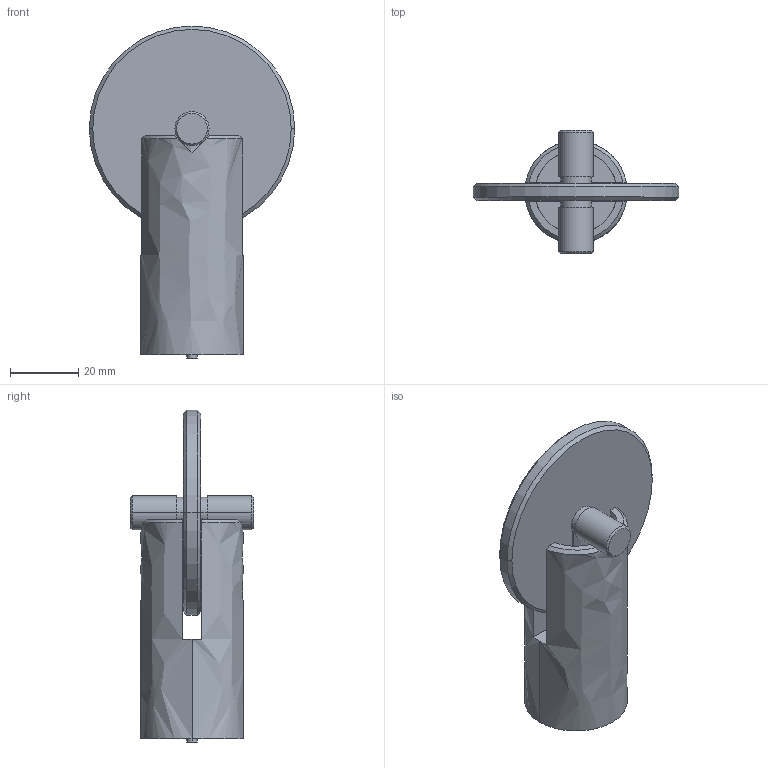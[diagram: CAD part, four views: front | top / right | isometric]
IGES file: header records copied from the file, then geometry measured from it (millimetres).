
Start section: Elysium IGES Interface
Global section: file name: 82HS:\5_測器センサ開発部\2課\2係\30_3D-CAD\20_オプション\01_Calゲージセット\506用.igs; native system: Creo Elements/Direct Modeling 18.1C  24-Feb-2013; preprocessor: Creo Element/Direct IGES_3D V2.2; author: Unknown; organization: Unknown; date: 20180914.195102; units: millimetre
Bounding box: 60 x 36 x 97 mm (x, y, z)
Volume: 54187.5 mm3; surface area: 17534 mm2
Topology: 4 solids, 4 shells, 82 faces, 194 edges, 126 vertices
Faces by surface type: bspline 82
